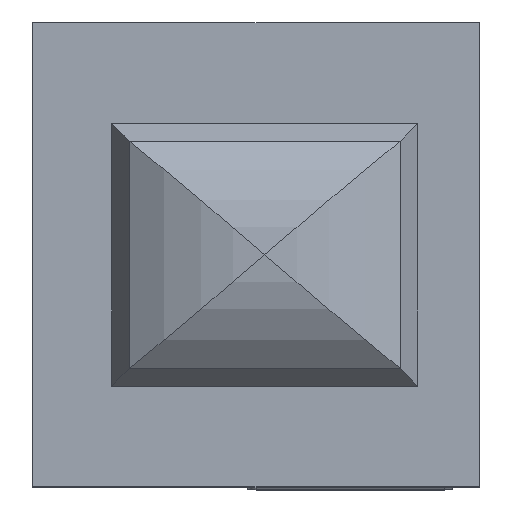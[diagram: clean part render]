
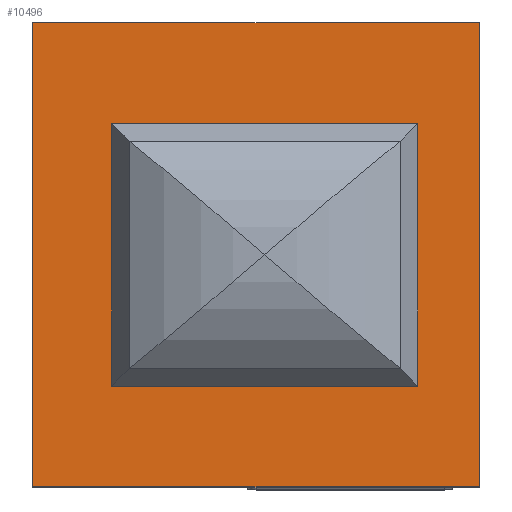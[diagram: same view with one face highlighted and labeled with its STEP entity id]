
A CAD part, top view. The second image highlights one B-rep face of the part: STEP entity #10496.
In plain terms, the highlighted planar face has unit normal (0, 0, 1).
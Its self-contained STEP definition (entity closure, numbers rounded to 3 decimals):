
#3636=ORIENTED_EDGE('',*,*,#5111,.T.);
#3637=ORIENTED_EDGE('',*,*,#5110,.T.);
#3638=ORIENTED_EDGE('',*,*,#5108,.F.);
#3639=ORIENTED_EDGE('',*,*,#5105,.F.);
#3640=ORIENTED_EDGE('',*,*,#5112,.F.);
#3641=ORIENTED_EDGE('',*,*,#5113,.F.);
#3642=ORIENTED_EDGE('',*,*,#5114,.F.);
#3643=ORIENTED_EDGE('',*,*,#5115,.F.);
#5105=EDGE_CURVE('',#6093,#6094,#6999,.T.);
#5108=EDGE_CURVE('',#6094,#6095,#7002,.T.);
#5110=EDGE_CURVE('',#6096,#6095,#7004,.T.);
#5111=EDGE_CURVE('',#6093,#6096,#7005,.T.);
#5112=EDGE_CURVE('',#6097,#6098,#7006,.T.);
#5113=EDGE_CURVE('',#6099,#6097,#7007,.T.);
#5114=EDGE_CURVE('',#6100,#6099,#7008,.T.);
#5115=EDGE_CURVE('',#6098,#6100,#7009,.T.);
#6093=VERTEX_POINT('',#23819);
#6094=VERTEX_POINT('',#23821);
#6095=VERTEX_POINT('',#23825);
#6096=VERTEX_POINT('',#23829);
#6097=VERTEX_POINT('',#23835);
#6098=VERTEX_POINT('',#23836);
#6099=VERTEX_POINT('',#23838);
#6100=VERTEX_POINT('',#23840);
#6999=LINE('',#23820,#7911);
#7002=LINE('',#23826,#7914);
#7004=LINE('',#23830,#7916);
#7005=LINE('',#23832,#7917);
#7006=LINE('',#23834,#7918);
#7007=LINE('',#23837,#7919);
#7008=LINE('',#23839,#7920);
#7009=LINE('',#23841,#7921);
#7911=VECTOR('',#16382,1000.);
#7914=VECTOR('',#16387,1000.);
#7916=VECTOR('',#16391,1000.);
#7917=VECTOR('',#16394,1000.);
#7918=VECTOR('',#16397,1000.);
#7919=VECTOR('',#16398,1000.);
#7920=VECTOR('',#16399,1000.);
#7921=VECTOR('',#16400,1000.);
#8702=EDGE_LOOP('',(#3636,#3637,#3638,#3639));
#8703=EDGE_LOOP('',(#3640,#3641,#3642,#3643));
#9478=FACE_BOUND('',#8702,.T.);
#9479=FACE_BOUND('',#8703,.T.);
#9881=PLANE('',#13758);
#10496=ADVANCED_FACE('',(#9478,#9479),#9881,.T.);
#13758=AXIS2_PLACEMENT_3D('',#23833,#16395,#16396);
#16382=DIRECTION('',(0.,1.,0.));
#16387=DIRECTION('',(-1.,0.,0.));
#16391=DIRECTION('',(0.,1.,0.));
#16394=DIRECTION('',(-1.,0.,0.));
#16395=DIRECTION('',(0.,0.,1.));
#16396=DIRECTION('',(1.,0.,0.));
#16397=DIRECTION('',(-1.,0.,0.));
#16398=DIRECTION('',(0.,-1.,0.));
#16399=DIRECTION('',(1.,0.,0.));
#16400=DIRECTION('',(0.,1.,0.));
#23819=CARTESIAN_POINT('',(440.,115.,365.));
#23820=CARTESIAN_POINT('',(440.,100.383,365.));
#23821=CARTESIAN_POINT('',(440.,415.,365.));
#23825=CARTESIAN_POINT('',(90.,415.,365.));
#23826=CARTESIAN_POINT('',(474.359,415.,365.));
#23829=CARTESIAN_POINT('',(90.,115.,365.));
#23830=CARTESIAN_POINT('',(90.,100.383,365.));
#23832=CARTESIAN_POINT('',(474.359,115.,365.));
#23833=CARTESIAN_POINT('',(510.,530.,365.));
#23834=CARTESIAN_POINT('',(510.,-0.001,365.));
#23835=CARTESIAN_POINT('',(510.001,-0.001,365.));
#23836=CARTESIAN_POINT('',(-0.001,-0.001,365.));
#23837=CARTESIAN_POINT('',(510.001,530.001,365.));
#23838=CARTESIAN_POINT('',(510.001,530.001,365.));
#23839=CARTESIAN_POINT('',(0.,530.001,365.));
#23840=CARTESIAN_POINT('',(-0.001,530.001,365.));
#23841=CARTESIAN_POINT('',(-0.001,0.,365.));
